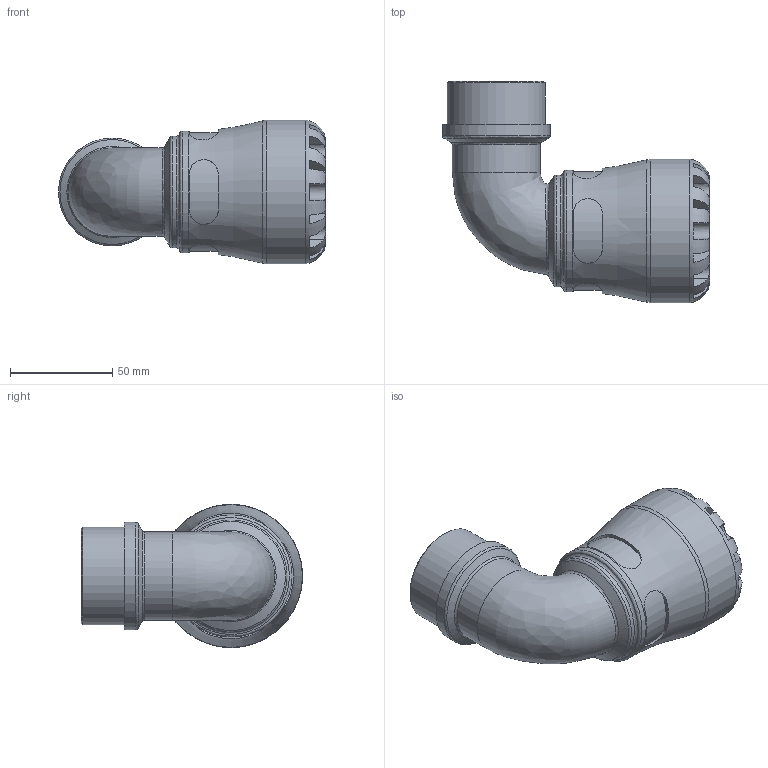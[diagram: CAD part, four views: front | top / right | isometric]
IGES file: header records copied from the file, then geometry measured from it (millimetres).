
Global section: file name: 107700040015_197700040015.ipt; native system: Autodesk Inventor 2015; preprocessor: unknown; author: KIM; date: 20170122.115504; units: millimetre
Bounding box: 130.29 x 108 x 70 mm (x, y, z)
Volume: 213966 mm3; surface area: 53457.7 mm2
Topology: 1 solids, 1 shells, 112 faces, 290 edges, 183 vertices
Faces by surface type: plane 60, revolution 28, cylinder 18, bspline 4, cone 2
Full cylindrical faces by diameter (mm): 43.023 x1, 47.803 x1, 52.583 x1, 54.6 x1, 59.5 x1, 70 x1
